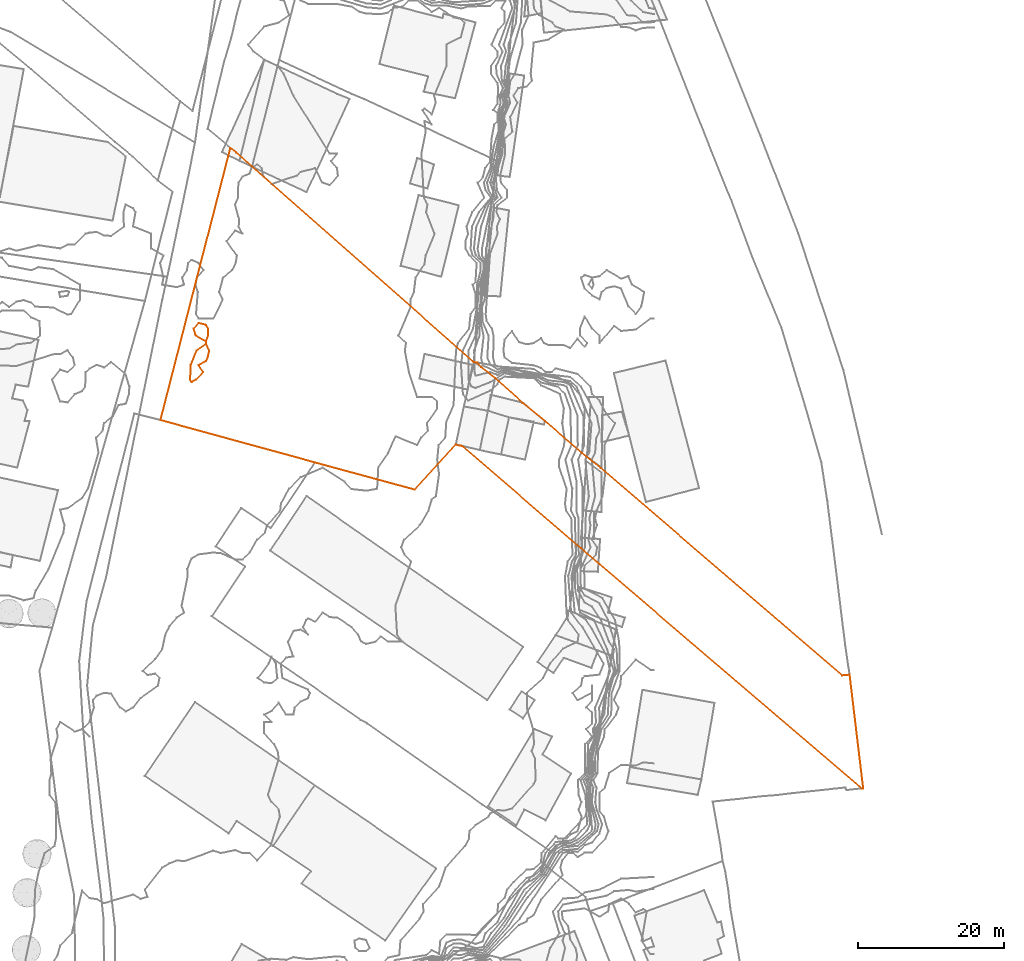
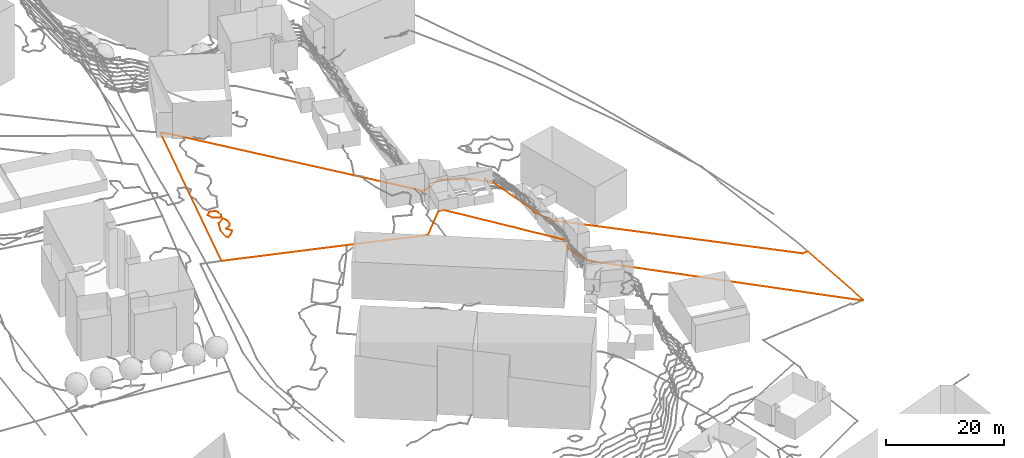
# Not in any storey, part 375 of 419: 3 proxies.
"""IFC2X3 model written with IfcOpenShell, lengths in metres."""

from ifc_helpers import new_model, entity, si_unit, frame, origin_with_axes, place, context, subcontext, project, element, save


model = new_model("IFC2X3")

# Units and contexts
model_context = context("Model", 3, precision=1e-05, world=origin_with_axes())
body_context = subcontext(model_context, "Body", "Model", "MODEL_VIEW")
ifc_project = project(units=[si_unit("AREAUNIT", "SQUARE_METRE"), si_unit("LENGTHUNIT", "METRE")], contexts=[model_context])

# Proxies
proxy_1_placement = place(None, frame((908.8420204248, 819.3276909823, 96.7605720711), z_axis=(0.0, 0.0, 1.0), x_axis=(1.0, 0.0, 0.0)))
element("IfcBuildingElementProxy", 1, at=proxy_1_placement, Name="Cadastre 243", ObjectType="NOTDEFINED", context=body_context, shape_type="GeometricCurveSet", body=[
    entity("IfcGeometricCurveSet", [entity("IfcPolyline", [entity("IfcCartesianPoint", [0.0, 0.0, 0.0]), entity("IfcCartesianPoint", [9.59, 37.3600000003, 0.5136429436]), entity("IfcCartesianPoint", [10.42, 36.7400000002, 0.4717376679]), entity("IfcCartesianPoint", [12.5800000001, 34.7700000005, 0.1619794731]), entity("IfcCartesianPoint", [43.01, 7.9500000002, -5.15049076]), entity("IfcCartesianPoint", [43.53, 7.8900000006, -5.516113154]), entity("IfcCartesianPoint", [44.04, 7.2800000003, -5.1974064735]), entity("IfcCartesianPoint", [45.9300000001, 5.7600000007, -2.7647054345]), entity("IfcCartesianPoint", [49.74, 2.3600000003, -1.9299412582]), entity("IfcCartesianPoint", [52.77, -0.1399999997, -2.0063407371]), entity("IfcCartesianPoint", [57.9, -4.54, -6.6018450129]), entity("IfcCartesianPoint", [58.4300000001, -4.9899999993, -7.427108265]), entity("IfcCartesianPoint", [60.4, -6.5499999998, -8.684610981]), entity("IfcCartesianPoint", [93.5600000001, -35.0299999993, -9.9535743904]), entity("IfcCartesianPoint", [94.6, -34.9399999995, -9.9508745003]), entity("IfcCartesianPoint", [96.47, -50.5499999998, -11.2287739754]), entity("IfcCartesianPoint", [96.23, -50.5499999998, -11.2287739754]), entity("IfcCartesianPoint", [60.12, -19.6699999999, -9.0538829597]), entity("IfcCartesianPoint", [57.71, -17.5899999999, -6.9753345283]), entity("IfcCartesianPoint", [57.12, -17.1099999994, -5.2055332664]), entity("IfcCartesianPoint", [41.41, -3.5499999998, -1.8096027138]), entity("IfcCartesianPoint", [40.5, -3.3699999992, -1.8379689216]), entity("IfcCartesianPoint", [34.88, -9.54, -1.0911321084]), entity("IfcCartesianPoint", [21.1900000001, -5.8099999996, -0.6051793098]), entity("IfcCartesianPoint", [0.0, 0.0, 0.0])])]),
])
proxy_2_placement = place(None, frame((913.3997262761, 831.8976909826, 97.0), z_axis=(0.0, 0.0, 1.0), x_axis=(1.0, 0.0, 0.0)))
element("IfcBuildingElementProxy", 2, at=proxy_2_placement, Name="Contour 97.0 m", ObjectType="NOTDEFINED", context=body_context, shape_type="GeometricCurveSet", body=[
    entity("IfcGeometricCurveSet", [entity("IfcPolyline", [entity("IfcCartesianPoint", [1.9780162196, -1.0, 0.0]), entity("IfcCartesianPoint", [1.6922941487, -1.7999694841, 0.0]), entity("IfcCartesianPoint", [0.31731799, -1.0, 0.0]), entity("IfcCartesianPoint", [0.0, 0.0, 0.0]), entity("IfcCartesianPoint", [0.6922941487, 0.75, 0.0]), entity("IfcCartesianPoint", [1.6922941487, 0.5000166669, 0.0]), entity("IfcCartesianPoint", [1.9922865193, 0.0, 0.0]), entity("IfcCartesianPoint", [1.9780162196, -1.0, 0.0])])]),
])
proxy_3_placement = place(None, frame((912.9253749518, 824.8976909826, 97.0), z_axis=(0.0, 0.0, 1.0), x_axis=(1.0, 0.0, 0.0)))
element("IfcBuildingElementProxy", 3, at=proxy_3_placement, Name="Contour 97.0 m", ObjectType="NOTDEFINED", context=body_context, shape_type="GeometricCurveSet", body=[
    entity("IfcGeometricCurveSet", [entity("IfcPolyline", [entity("IfcCartesianPoint", [0.8332273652, 0.0, 0.0]), entity("IfcCartesianPoint", [0.166645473, -0.3332909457, 0.0]), entity("IfcCartesianPoint", [0.0, 0.0, 0.0]), entity("IfcCartesianPoint", [0.0757174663, 2.0, 0.0]), entity("IfcCartesianPoint", [0.880977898, 4.0, 0.0]), entity("IfcCartesianPoint", [2.166645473, 4.9090719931, 0.0]), entity("IfcCartesianPoint", [2.6211814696, 4.0, 0.0]), entity("IfcCartesianPoint", [2.4019475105, 3.0, 0.0]), entity("IfcCartesianPoint", [2.166645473, 2.5555649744, 0.0]), entity("IfcCartesianPoint", [1.1666654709, 2.0, 0.0]), entity("IfcCartesianPoint", [1.7916693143, 1.0, 0.0]), entity("IfcCartesianPoint", [0.8332273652, 0.0, 0.0])])]),
])

save(model, "model.ifc")
